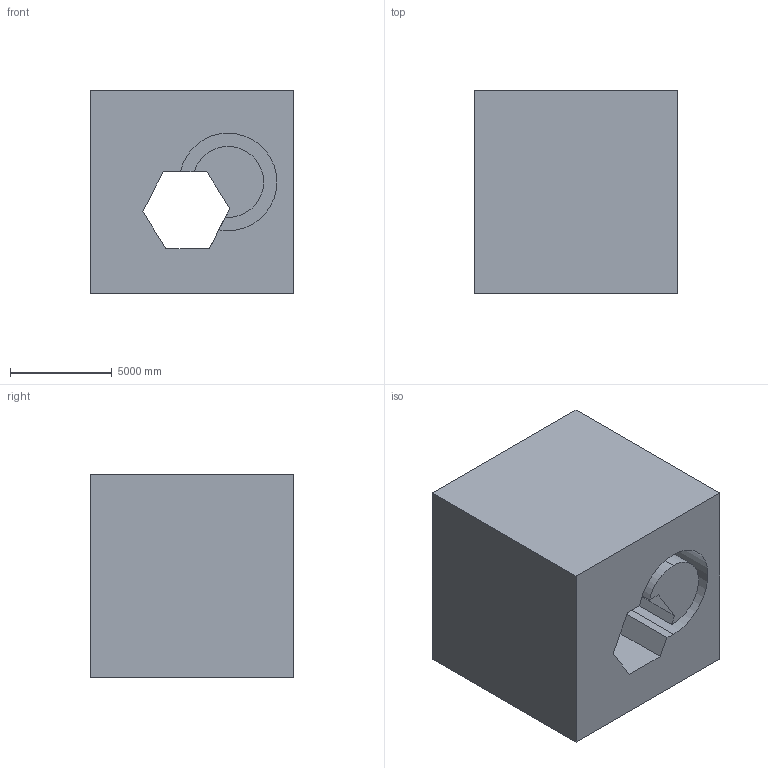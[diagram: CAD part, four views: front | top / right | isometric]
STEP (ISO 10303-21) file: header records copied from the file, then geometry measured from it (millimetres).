
FILE_DESCRIPTION (( 'STEP AP203' ), '1' );
FILE_NAME ('1035.STEP', '2022-08-18T12:30:21', ( 'user' ), ( '' ), 'SwSTEP 2.0', 'SolidWorks 2021', '' );
FILE_SCHEMA (( 'CONFIG_CONTROL_DESIGN' ));
Length unit declared in the file: centimetre
Products named in the file (1): 1035
Bounding box: 10000 x 10000 x 10000 mm (x, y, z)
Volume: 840554632426.4 mm3; surface area: 813779734 mm2
Topology: 1 solids, 1 shells, 20 faces, 54 edges, 36 vertices
Faces by surface type: plane 14, cylinder 6
Entity records: 711 total; most frequent: CARTESIAN_POINT 111, DIRECTION 108, ORIENTED_EDGE 108, EDGE_CURVE 54, LINE 42, VECTOR 42, VERTEX_POINT 36, AXIS2_PLACEMENT_3D 33
